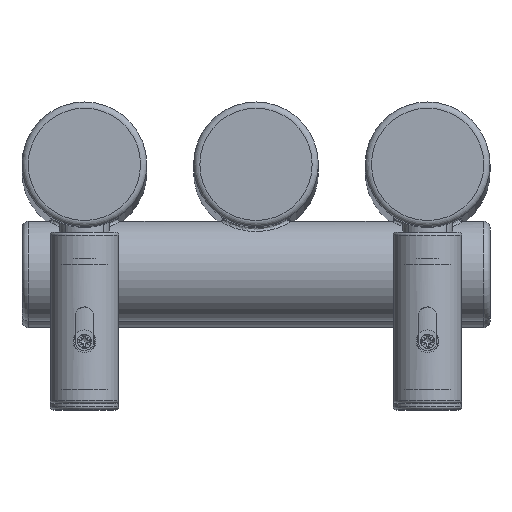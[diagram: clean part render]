
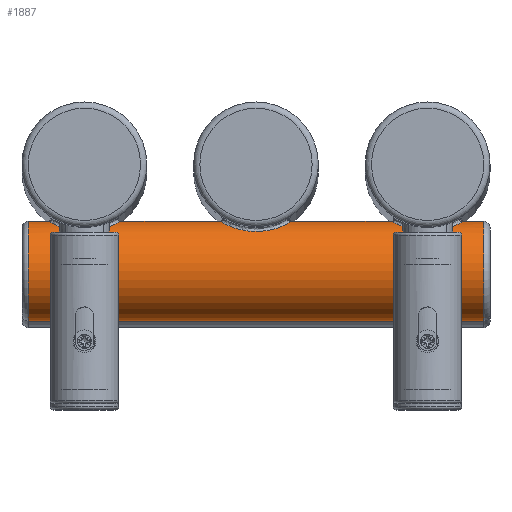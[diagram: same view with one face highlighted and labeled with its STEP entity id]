
A CAD part, top view. The second image highlights one B-rep face of the part: STEP entity #1887.
In plain terms, the highlighted cylindrical face has radius 16 mm (diameter 32 mm), a full revolution.
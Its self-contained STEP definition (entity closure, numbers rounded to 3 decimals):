
#163=FACE_BOUND('',#495,.T.);
#164=FACE_BOUND('',#496,.T.);
#165=FACE_BOUND('',#497,.T.);
#184=LINE('',#3873,#256);
#256=VECTOR('',#2366,16.);
#328=CYLINDRICAL_SURFACE('',#2066,16.);
#361=FACE_OUTER_BOUND('',#494,.T.);
#494=EDGE_LOOP('',(#1345,#1346,#1347,#1348));
#495=EDGE_LOOP('',(#1349));
#496=EDGE_LOOP('',(#1350));
#497=EDGE_LOOP('',(#1351));
#636=B_SPLINE_CURVE_WITH_KNOTS('',3,(#3849,#3850,#3851,#3852,#3853,#3854,
#3855,#3856,#3857,#3858,#3859,#3860,#3861,#3862,#3863,#3864,#3865,#3866,
#3867,#3868),.UNSPECIFIED.,.T.,.F.,(4,1,1,1,1,1,1,1,1,1,1,1,1,1,1,1,1,4),
(0.,0.367,0.733,1.1,1.466,
1.711,1.955,2.199,2.444,2.933,
3.177,3.421,3.666,3.91,4.154,
4.399,4.765,5.132),.UNSPECIFIED.);
#637=B_SPLINE_CURVE_WITH_KNOTS('',3,(#3876,#3877,#3878,#3879,#3880,#3881,
#3882,#3883,#3884,#3885,#3886,#3887,#3888,#3889,#3890,#3891,#3892,#3893,
#3894,#3895,#3896),.UNSPECIFIED.,.T.,.F.,(4,1,1,1,1,1,1,1,1,1,1,1,1,1,1,
1,1,1,4),(0.,0.367,0.733,0.916,1.1,
1.466,1.711,1.955,2.199,2.444,
2.688,2.933,3.177,3.421,3.666,
3.91,4.399,4.765,5.132),
 .UNSPECIFIED.);
#638=B_SPLINE_CURVE_WITH_KNOTS('',3,(#3898,#3899,#3900,#3901,#3902,#3903,
#3904,#3905,#3906,#3907,#3908,#3909,#3910,#3911,#3912,#3913,#3914,#3915,
#3916,#3917,#3918),.UNSPECIFIED.,.T.,.F.,(4,1,1,1,1,1,1,1,1,1,1,1,1,1,1,
1,1,1,4),(0.,0.367,0.733,0.916,1.1,
1.466,1.711,1.955,2.199,2.444,
2.688,2.933,3.177,3.421,3.666,
3.91,4.399,4.765,5.132),
 .UNSPECIFIED.);
#687=CIRCLE('',#2067,16.);
#688=CIRCLE('',#2068,16.);
#837=VERTEX_POINT('',#3847);
#838=VERTEX_POINT('',#3870);
#839=VERTEX_POINT('',#3872);
#840=VERTEX_POINT('',#3875);
#841=VERTEX_POINT('',#3897);
#1041=EDGE_CURVE('',#837,#837,#636,.T.);
#1042=EDGE_CURVE('',#838,#838,#687,.T.);
#1043=EDGE_CURVE('',#838,#839,#184,.T.);
#1044=EDGE_CURVE('',#839,#839,#688,.T.);
#1045=EDGE_CURVE('',#840,#840,#637,.T.);
#1046=EDGE_CURVE('',#841,#841,#638,.T.);
#1345=ORIENTED_EDGE('',*,*,#1042,.F.);
#1346=ORIENTED_EDGE('',*,*,#1043,.T.);
#1347=ORIENTED_EDGE('',*,*,#1044,.F.);
#1348=ORIENTED_EDGE('',*,*,#1043,.F.);
#1349=ORIENTED_EDGE('',*,*,#1045,.F.);
#1350=ORIENTED_EDGE('',*,*,#1046,.F.);
#1351=ORIENTED_EDGE('',*,*,#1041,.F.);
#1887=ADVANCED_FACE('',(#361,#163,#164,#165),#328,.T.);
#2066=AXIS2_PLACEMENT_3D('',#3869,#2362,#2363);
#2067=AXIS2_PLACEMENT_3D('',#3871,#2364,#2365);
#2068=AXIS2_PLACEMENT_3D('',#3874,#2367,#2368);
#2362=DIRECTION('center_axis',(-1.,0.,0.));
#2363=DIRECTION('ref_axis',(0.,0.,1.));
#2364=DIRECTION('center_axis',(-1.,0.,0.));
#2365=DIRECTION('ref_axis',(0.,0.,1.));
#2366=DIRECTION('',(1.,0.,0.));
#2367=DIRECTION('center_axis',(1.,0.,0.));
#2368=DIRECTION('ref_axis',(0.,0.,1.));
#3847=CARTESIAN_POINT('',(-110.,-21.257,1254.676));
#3849=CARTESIAN_POINT('Ctrl Pts',(-110.,-21.257,1254.676));
#3850=CARTESIAN_POINT('Ctrl Pts',(-108.333,-21.257,1254.676));
#3851=CARTESIAN_POINT('Ctrl Pts',(-104.996,-20.861,1254.183));
#3852=CARTESIAN_POINT('Ctrl Pts',(-100.824,-19.321,1251.735));
#3853=CARTESIAN_POINT('Ctrl Pts',(-98.535,-17.944,1247.489));
#3854=CARTESIAN_POINT('Ctrl Pts',(-98.541,-17.95,1243.065));
#3855=CARTESIAN_POINT('Ctrl Pts',(-100.014,-18.832,1239.661));
#3856=CARTESIAN_POINT('Ctrl Pts',(-102.203,-19.862,1237.415));
#3857=CARTESIAN_POINT('Ctrl Pts',(-105.073,-20.765,1235.975));
#3858=CARTESIAN_POINT('Ctrl Pts',(-109.399,-21.459,1235.075));
#3859=CARTESIAN_POINT('Ctrl Pts',(-113.97,-21.08,1235.503));
#3860=CARTESIAN_POINT('Ctrl Pts',(-117.798,-19.859,1237.414));
#3861=CARTESIAN_POINT('Ctrl Pts',(-119.987,-18.833,1239.664));
#3862=CARTESIAN_POINT('Ctrl Pts',(-121.251,-18.078,1242.581));
#3863=CARTESIAN_POINT('Ctrl Pts',(-121.505,-17.912,1245.817));
#3864=CARTESIAN_POINT('Ctrl Pts',(-120.743,-18.396,1248.944));
#3865=CARTESIAN_POINT('Ctrl Pts',(-118.706,-19.497,1252.001));
#3866=CARTESIAN_POINT('Ctrl Pts',(-115.007,-20.859,1254.186));
#3867=CARTESIAN_POINT('Ctrl Pts',(-111.667,-21.257,1254.676));
#3868=CARTESIAN_POINT('Ctrl Pts',(-110.,-21.257,1254.676));
#3869=CARTESIAN_POINT('Origin',(20.,-34.,1245.));
#3870=CARTESIAN_POINT('',(-128.,-34.,1229.));
#3871=CARTESIAN_POINT('Origin',(-128.,-34.,1245.));
#3872=CARTESIAN_POINT('',(18.,-34.,1229.));
#3873=CARTESIAN_POINT('',(20.,-34.,1229.));
#3874=CARTESIAN_POINT('Origin',(18.,-34.,1245.));
#3875=CARTESIAN_POINT('',(-55.,-21.257,1254.676));
#3876=CARTESIAN_POINT('Ctrl Pts',(-55.,-21.257,1254.676));
#3877=CARTESIAN_POINT('Ctrl Pts',(-53.333,-21.257,1254.676));
#3878=CARTESIAN_POINT('Ctrl Pts',(-49.992,-20.858,1254.186));
#3879=CARTESIAN_POINT('Ctrl Pts',(-46.526,-19.582,1252.138));
#3880=CARTESIAN_POINT('Ctrl Pts',(-44.675,-18.63,1249.615));
#3881=CARTESIAN_POINT('Ctrl Pts',(-43.539,-17.949,1246.659));
#3882=CARTESIAN_POINT('Ctrl Pts',(-43.538,-17.947,1243.067));
#3883=CARTESIAN_POINT('Ctrl Pts',(-45.013,-18.833,1239.662));
#3884=CARTESIAN_POINT('Ctrl Pts',(-47.203,-19.86,1237.415));
#3885=CARTESIAN_POINT('Ctrl Pts',(-50.072,-20.768,1235.978));
#3886=CARTESIAN_POINT('Ctrl Pts',(-53.318,-21.278,1235.296));
#3887=CARTESIAN_POINT('Ctrl Pts',(-56.682,-21.279,1235.296));
#3888=CARTESIAN_POINT('Ctrl Pts',(-59.929,-20.768,1235.978));
#3889=CARTESIAN_POINT('Ctrl Pts',(-62.797,-19.862,1237.416));
#3890=CARTESIAN_POINT('Ctrl Pts',(-64.989,-18.829,1239.664));
#3891=CARTESIAN_POINT('Ctrl Pts',(-66.247,-18.084,1242.578));
#3892=CARTESIAN_POINT('Ctrl Pts',(-66.602,-17.835,1246.907));
#3893=CARTESIAN_POINT('Ctrl Pts',(-64.645,-19.134,1251.468));
#3894=CARTESIAN_POINT('Ctrl Pts',(-59.999,-20.872,1254.179));
#3895=CARTESIAN_POINT('Ctrl Pts',(-56.667,-21.257,1254.676));
#3896=CARTESIAN_POINT('Ctrl Pts',(-55.,-21.257,1254.676));
#3897=CARTESIAN_POINT('',(0.,-21.257,1254.676));
#3898=CARTESIAN_POINT('Ctrl Pts',(0.,-21.257,
1254.676));
#3899=CARTESIAN_POINT('Ctrl Pts',(1.667,-21.257,1254.676));
#3900=CARTESIAN_POINT('Ctrl Pts',(5.008,-20.858,1254.186));
#3901=CARTESIAN_POINT('Ctrl Pts',(8.474,-19.582,1252.138));
#3902=CARTESIAN_POINT('Ctrl Pts',(10.325,-18.63,1249.615));
#3903=CARTESIAN_POINT('Ctrl Pts',(11.461,-17.949,1246.659));
#3904=CARTESIAN_POINT('Ctrl Pts',(11.462,-17.947,1243.067));
#3905=CARTESIAN_POINT('Ctrl Pts',(9.987,-18.833,1239.662));
#3906=CARTESIAN_POINT('Ctrl Pts',(7.797,-19.86,1237.415));
#3907=CARTESIAN_POINT('Ctrl Pts',(4.928,-20.768,1235.978));
#3908=CARTESIAN_POINT('Ctrl Pts',(1.682,-21.278,1235.296));
#3909=CARTESIAN_POINT('Ctrl Pts',(-1.682,-21.279,1235.296));
#3910=CARTESIAN_POINT('Ctrl Pts',(-4.929,-20.768,1235.978));
#3911=CARTESIAN_POINT('Ctrl Pts',(-7.797,-19.862,1237.415));
#3912=CARTESIAN_POINT('Ctrl Pts',(-9.989,-18.829,1239.664));
#3913=CARTESIAN_POINT('Ctrl Pts',(-11.247,-18.084,1242.578));
#3914=CARTESIAN_POINT('Ctrl Pts',(-11.602,-17.835,1246.907));
#3915=CARTESIAN_POINT('Ctrl Pts',(-9.645,-19.134,1251.468));
#3916=CARTESIAN_POINT('Ctrl Pts',(-4.999,-20.872,1254.179));
#3917=CARTESIAN_POINT('Ctrl Pts',(-1.667,-21.257,1254.676));
#3918=CARTESIAN_POINT('Ctrl Pts',(0.,-21.257,
1254.676));
